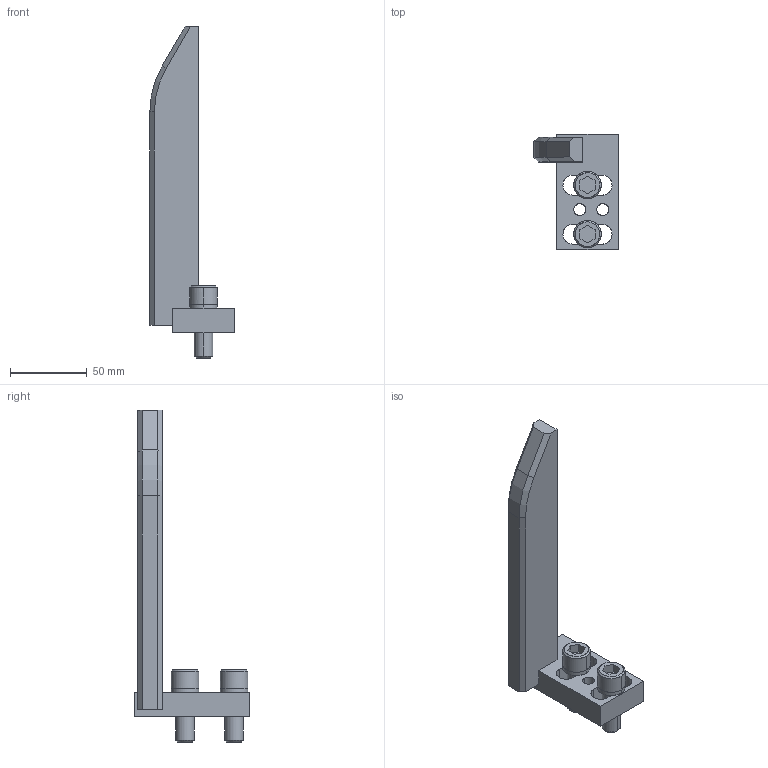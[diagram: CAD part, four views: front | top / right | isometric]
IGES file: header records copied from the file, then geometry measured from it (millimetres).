
Global section: file name: E:\UnigraphicsGraphicData\MISUMI_PRESS-PARTS\IGES\3d_enstr-200-40-m12_01470_r00.igs; native system: NX V5.0; preprocessor: UGS NX IGES V5.0; author: MISUMI; date: 20110105.160635; units: millimetre
Bounding box: 55 x 75 x 216.5 mm (x, y, z)
Surface area: 34110.7 mm2 (no closed solid volume)
Topology: 0 solids, 0 shells, 80 faces, 516 edges, 516 vertices
Faces by surface type: bspline 80
